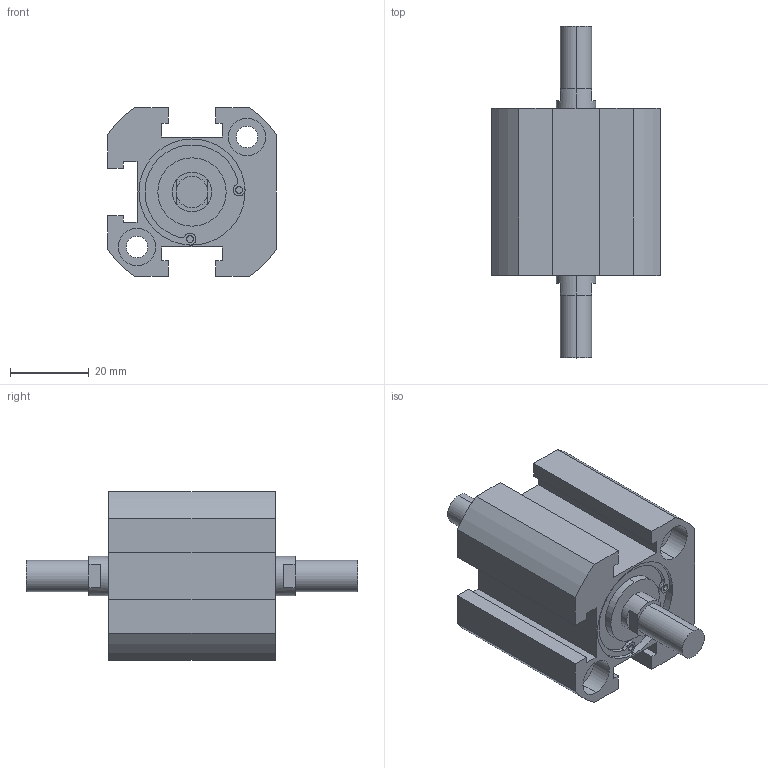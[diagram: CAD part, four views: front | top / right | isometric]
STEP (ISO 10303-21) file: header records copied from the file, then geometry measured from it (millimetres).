
FILE_DESCRIPTION (( 'STEP AP203' ), '1' );
FILE_NAME ('XG#M7-25D-10.STEP', '2016-05-24T02:23:09', ( '' ), ( '' ), 'SwSTEP 2.0', 'SolidWorks 2014', '' );
FILE_SCHEMA (( 'CONFIG_CONTROL_DESIGN' ));
Length unit declared in the file: millimetre
Products named in the file (1): XG#M7-25D-10
Bounding box: 43 x 84.5 x 43 mm (x, y, z)
Volume: 59814 mm3; surface area: 16057.7 mm2
Topology: 1 solids, 1 shells, 127 faces, 321 edges, 208 vertices
Faces by surface type: cylinder 65, plane 58, cone 4
Entity records: 3918 total; most frequent: DIRECTION 715, CARTESIAN_POINT 653, ORIENTED_EDGE 634, EDGE_CURVE 317, AXIS2_PLACEMENT_3D 270, VERTEX_POINT 208, VECTOR 175, LINE 175
